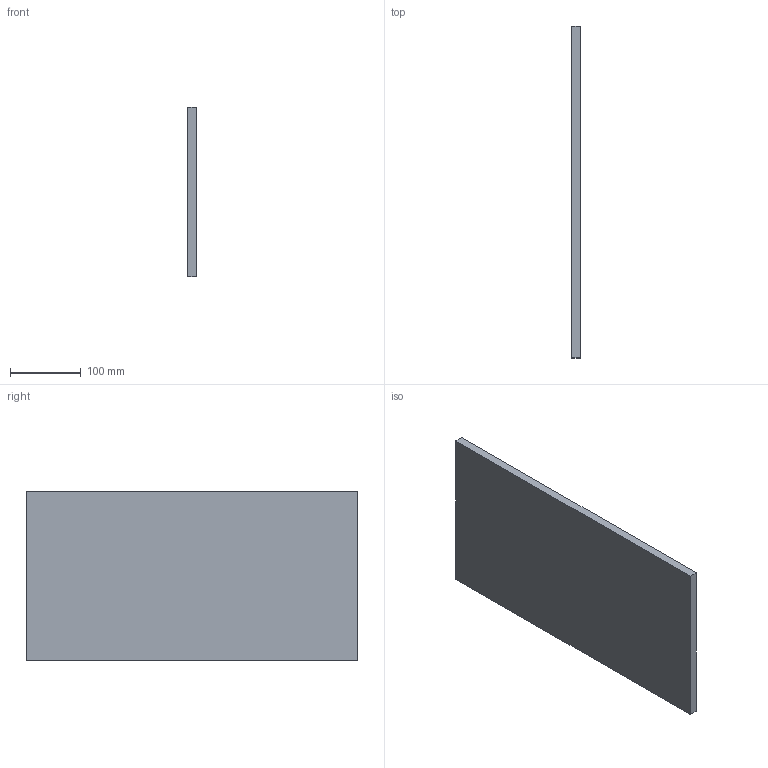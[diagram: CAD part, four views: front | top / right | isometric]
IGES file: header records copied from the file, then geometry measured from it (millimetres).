
Start section: Data from Parasolid IGES Translator 19.0.9, Copyright(c) 2006 Siemens PL M Software. All Rights Reserved.
Global section: file name: noorth-SI-H 24 D 47 W 1,2_8986.igs; native system: By Siemens PLM Incorporated; preprocessor: XPlus GENERIC/IGES 19.0.9; author: Noname; organization: Noname; date: 20200710.084337; units: metre
Bounding box: 12 x 470 x 240 mm (x, y, z)
Volume: 1353600 mm3; surface area: 242640 mm2
Topology: 1 solids, 1 shells, 6 faces, 12 edges, 8 vertices
Faces by surface type: plane 6
